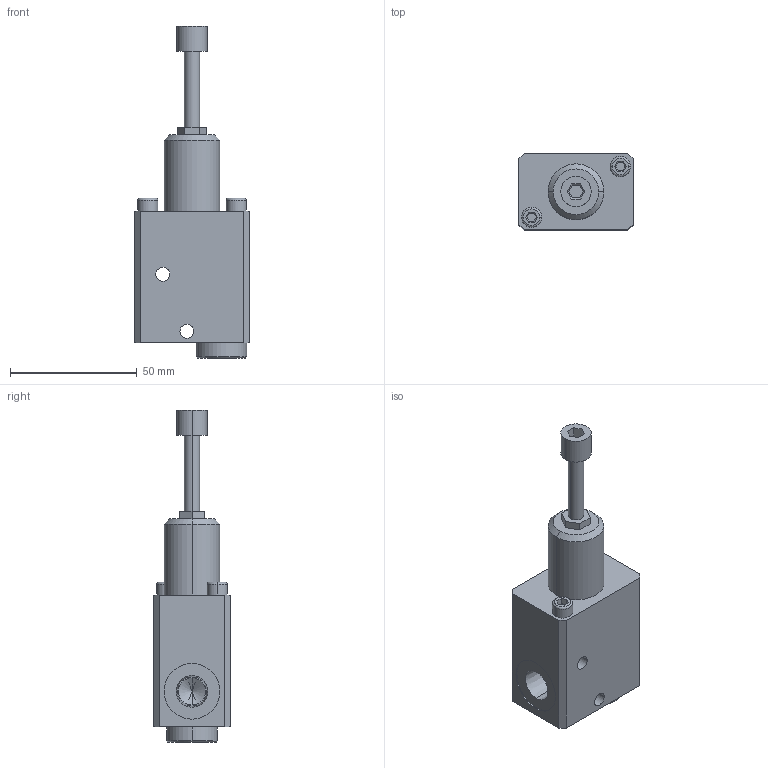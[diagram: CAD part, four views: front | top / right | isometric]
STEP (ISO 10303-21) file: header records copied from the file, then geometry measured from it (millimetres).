
FILE_DESCRIPTION (( 'STEP AP203' ), '1' );
FILE_NAME ('5311 112.STEP', '2016-01-29T10:36:11', ( '' ), ( '' ), 'SwSTEP 2.0', 'SolidWorks 2015', '' );
FILE_SCHEMA (( 'CONFIG_CONTROL_DESIGN' ));
Length unit declared in the file: millimetre
Products named in the file (1): 5311 112
Bounding box: 45 x 30 x 131 mm (x, y, z)
Volume: 76030.6 mm3; surface area: 18187.2 mm2
Topology: 2 solids, 2 shells, 124 faces, 289 edges, 180 vertices
Faces by surface type: plane 76, cylinder 28, cone 16, torus 4
Entity records: 3598 total; most frequent: CARTESIAN_POINT 650, DIRECTION 607, ORIENTED_EDGE 570, EDGE_CURVE 285, AXIS2_PLACEMENT_3D 205, VECTOR 197, LINE 197, VERTEX_POINT 180
